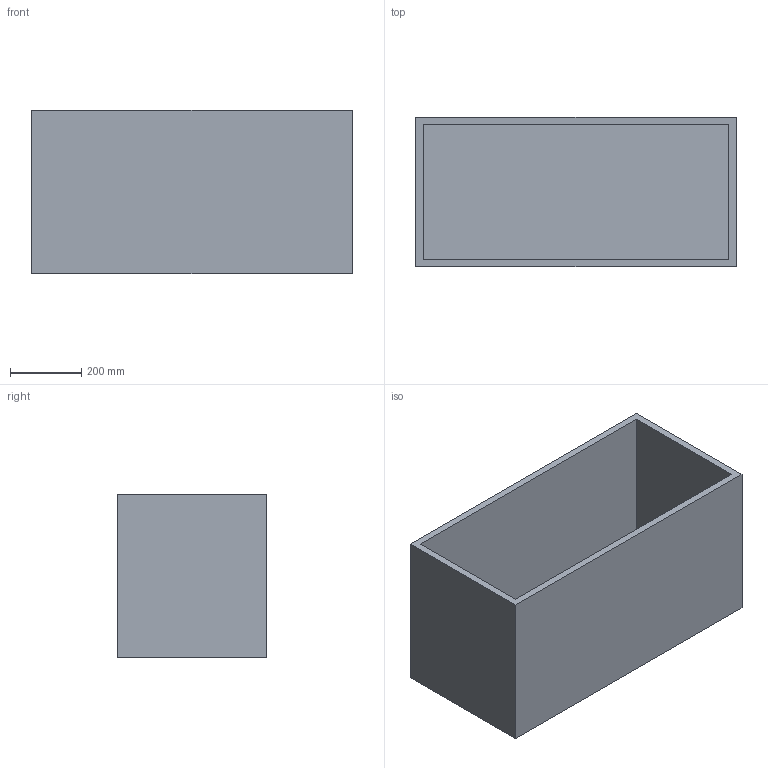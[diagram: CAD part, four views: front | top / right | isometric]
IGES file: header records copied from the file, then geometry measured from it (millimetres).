
Start section: SolidWorks IGES file using NURBS representation for surfaces
Global section: file name: G:\VICCARBE\PRODUCTOS\20-DO IT\04-MODELADOS (PLANOS)\SOLIDWORKS\Contenedores\IGES\VICCARBE_DO01.IGS; native system: SolidWorks 2009; preprocessor: SolidWorks 2009; author: RUBEN; date: 111102.121002; units: millimetre
Bounding box: 900 x 420 x 460 mm (x, y, z)
Surface area: 3061600 mm2 (no closed solid volume)
Topology: 0 solids, 0 shells, 11 faces, 48 edges, 48 vertices
Faces by surface type: bspline 11
